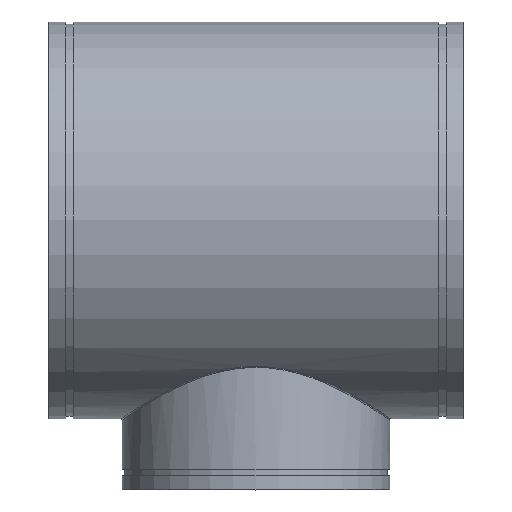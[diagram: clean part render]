
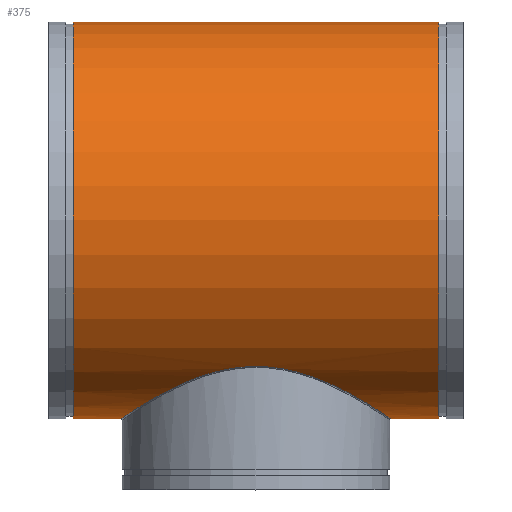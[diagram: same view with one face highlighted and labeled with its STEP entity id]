
A CAD part, top view. The second image highlights one B-rep face of the part: STEP entity #375.
In plain terms, the highlighted cylindrical face has radius 486.41 mm (diameter 972.82 mm), a full revolution.
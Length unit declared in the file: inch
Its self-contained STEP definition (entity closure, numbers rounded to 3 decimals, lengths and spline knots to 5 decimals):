
#54=FACE_BOUND('',#119,.T.);
#65=LINE('',#917,#76);
#76=VECTOR('',#483,19.15);
#87=CYLINDRICAL_SURFACE('',#415,19.15);
#98=FACE_OUTER_BOUND('',#118,.T.);
#118=EDGE_LOOP('',(#266,#267,#268,#269));
#119=EDGE_LOOP('',(#270));
#150=B_SPLINE_CURVE_WITH_KNOTS('',3,(#871,#872,#873,#874,#875,#876,#877,
#878,#879,#880,#881,#882,#883,#884,#885,#886,#887,#888,#889,#890,#891,#892,
#893,#894,#895,#896,#897,#898,#899,#900,#901,#902,#903,#904,#905,#906,#907,
#908,#909,#910,#911,#912),.UNSPECIFIED.,.T.,.F.,(4,1,1,1,1,1,1,1,1,1,1,
1,1,1,1,1,1,1,1,1,1,1,1,1,1,1,1,1,1,1,1,1,1,1,1,1,1,1,1,4),(-205.93042,
-202.25309,-198.57576,-191.2211,-183.86645,
-176.51179,-168.33995,-166.70558,-161.80247,
-156.89937,-151.99626,-147.09316,-142.19005,
-137.28695,-127.48074,-122.57763,-117.67453,
-112.77142,-107.86831,-102.96521,-98.0621,
-93.159,-88.25589,-83.35279,-78.44968,
-68.64347,-65.37474,-58.83726,-53.93416,
-49.03105,-44.12795,-39.22484,-34.32174,
-29.41863,-25.7413,-22.06397,-14.70932,
-7.35466,-3.67733,0.),.UNSPECIFIED.);
#154=CIRCLE('',#416,19.15);
#155=CIRCLE('',#417,19.15);
#182=VERTEX_POINT('',#821);
#185=VERTEX_POINT('',#914);
#186=VERTEX_POINT('',#916);
#219=EDGE_CURVE('',#182,#182,#150,.T.);
#220=EDGE_CURVE('',#185,#185,#154,.T.);
#221=EDGE_CURVE('',#185,#186,#65,.T.);
#222=EDGE_CURVE('',#186,#186,#155,.T.);
#266=ORIENTED_EDGE('',*,*,#220,.T.);
#267=ORIENTED_EDGE('',*,*,#221,.T.);
#268=ORIENTED_EDGE('',*,*,#222,.T.);
#269=ORIENTED_EDGE('',*,*,#221,.F.);
#270=ORIENTED_EDGE('',*,*,#219,.F.);
#375=ADVANCED_FACE('',(#98,#54),#87,.T.);
#415=AXIS2_PLACEMENT_3D('',#913,#479,#480);
#416=AXIS2_PLACEMENT_3D('',#915,#481,#482);
#417=AXIS2_PLACEMENT_3D('',#918,#484,#485);
#479=DIRECTION('center_axis',(-1.,0.,0.));
#480=DIRECTION('ref_axis',(0.,-1.,0.));
#481=DIRECTION('center_axis',(1.,0.,0.));
#482=DIRECTION('ref_axis',(0.,-1.,0.));
#483=DIRECTION('',(1.,0.,0.));
#484=DIRECTION('center_axis',(-1.,0.,0.));
#485=DIRECTION('ref_axis',(0.,-1.,0.));
#821=CARTESIAN_POINT('',(0.,-14.11613,-12.94053));
#871=CARTESIAN_POINT('Ctrl Pts',(0.,-14.11613,
-12.94053));
#872=CARTESIAN_POINT('Ctrl Pts',(0.50507,-14.11613,-12.94053));
#873=CARTESIAN_POINT('Ctrl Pts',(1.51478,-14.17024,-12.88195));
#874=CARTESIAN_POINT('Ctrl Pts',(3.48725,-14.48062,-12.53658));
#875=CARTESIAN_POINT('Ctrl Pts',(5.78703,-15.18053,-11.71));
#876=CARTESIAN_POINT('Ctrl Pts',(8.18924,-16.25676,-10.19194));
#877=CARTESIAN_POINT('Ctrl Pts',(10.27798,-17.40003,-8.13454));
#878=CARTESIAN_POINT('Ctrl Pts',(11.47629,-18.14208,-6.237));
#879=CARTESIAN_POINT('Ctrl Pts',(12.25524,-18.64024,-4.45178));
#880=CARTESIAN_POINT('Ctrl Pts',(12.72554,-18.94932,-2.98877));
#881=CARTESIAN_POINT('Ctrl Pts',(13.03798,-19.1587,-1.0079));
#882=CARTESIAN_POINT('Ctrl Pts',(13.03805,-19.15867,1.00802));
#883=CARTESIAN_POINT('Ctrl Pts',(12.72539,-18.94932,2.98888));
#884=CARTESIAN_POINT('Ctrl Pts',(12.12097,-18.55189,4.87008));
#885=CARTESIAN_POINT('Ctrl Pts',(10.96587,-17.82041,7.18533));
#886=CARTESIAN_POINT('Ctrl Pts',(9.35912,-16.87134,9.14965));
#887=CARTESIAN_POINT('Ctrl Pts',(7.39538,-15.89397,10.70728));
#888=CARTESIAN_POINT('Ctrl Pts',(5.75326,-15.2022,11.6616));
#889=CARTESIAN_POINT('Ctrl Pts',(3.95477,-14.61622,12.38079));
#890=CARTESIAN_POINT('Ctrl Pts',(2.01998,-14.21311,12.83591));
#891=CARTESIAN_POINT('Ctrl Pts',(-0.00001,-14.06747,
12.99292));
#892=CARTESIAN_POINT('Ctrl Pts',(-2.0201,-14.21315,12.83589));
#893=CARTESIAN_POINT('Ctrl Pts',(-3.95481,-14.61623,12.38075));
#894=CARTESIAN_POINT('Ctrl Pts',(-5.75335,-15.20224,11.6616));
#895=CARTESIAN_POINT('Ctrl Pts',(-7.39545,-15.89398,10.70716));
#896=CARTESIAN_POINT('Ctrl Pts',(-9.3592,-16.87141,9.14976));
#897=CARTESIAN_POINT('Ctrl Pts',(-10.83194,-17.74125,7.3487));
#898=CARTESIAN_POINT('Ctrl Pts',(-12.03744,-18.49708,5.07299));
#899=CARTESIAN_POINT('Ctrl Pts',(-12.69069,-18.92619,3.20921));
#900=CARTESIAN_POINT('Ctrl Pts',(-13.03805,-19.15861,1.00789));
#901=CARTESIAN_POINT('Ctrl Pts',(-13.03794,-19.15874,-1.00792));
#902=CARTESIAN_POINT('Ctrl Pts',(-12.72559,-18.94927,-2.98871));
#903=CARTESIAN_POINT('Ctrl Pts',(-12.12067,-18.552,-4.87022));
#904=CARTESIAN_POINT('Ctrl Pts',(-11.25519,-18.00312,-6.60617));
#905=CARTESIAN_POINT('Ctrl Pts',(-10.25296,-17.40091,-8.03767));
#906=CARTESIAN_POINT('Ctrl Pts',(-9.19625,-16.80784,-9.20006));
#907=CARTESIAN_POINT('Ctrl Pts',(-7.78889,-16.07747,-10.445));
#908=CARTESIAN_POINT('Ctrl Pts',(-5.78698,-15.18045,-11.70997));
#909=CARTESIAN_POINT('Ctrl Pts',(-3.4872,-14.48064,-12.53662));
#910=CARTESIAN_POINT('Ctrl Pts',(-1.5148,-14.17023,-12.88193));
#911=CARTESIAN_POINT('Ctrl Pts',(-0.50507,-14.11613,-12.94053));
#912=CARTESIAN_POINT('Ctrl Pts',(0.,-14.11613,
-12.94053));
#913=CARTESIAN_POINT('Origin',(20.,0.,0.));
#914=CARTESIAN_POINT('',(-17.625,19.15,0.));
#915=CARTESIAN_POINT('Origin',(-17.625,0.,0.));
#916=CARTESIAN_POINT('',(17.625,19.15,0.));
#917=CARTESIAN_POINT('',(20.,19.15,0.));
#918=CARTESIAN_POINT('Origin',(17.625,0.,0.));
